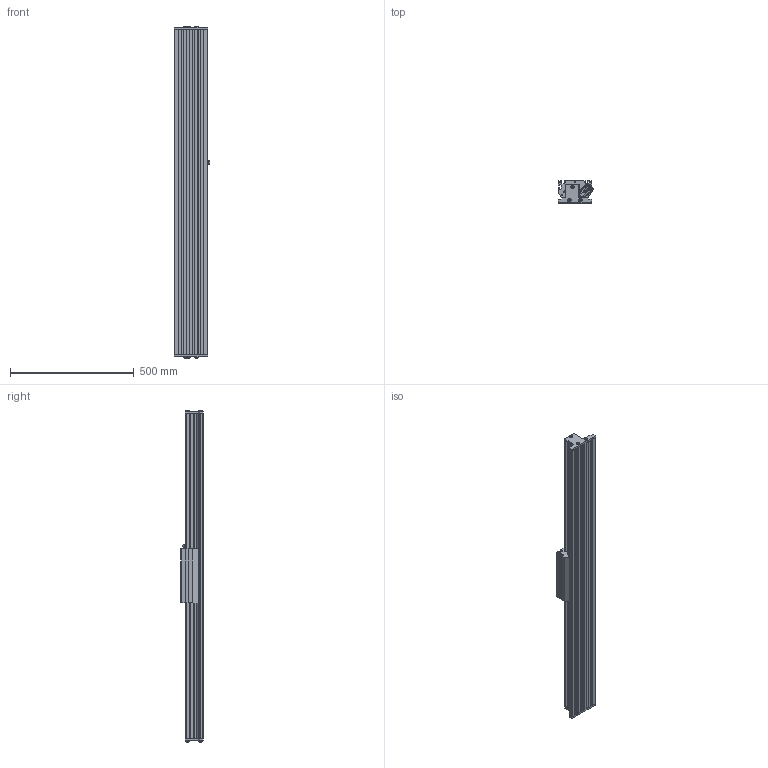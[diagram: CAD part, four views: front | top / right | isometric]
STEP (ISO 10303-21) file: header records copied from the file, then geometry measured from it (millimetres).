
FILE_DESCRIPTION (( 'STEP AP214' ), '1' );
FILE_NAME ('SINADRIVES Linear motor stage MLL20200XS-XX-1-0-ST-00-01332.STEP', '2015-07-06T09:06:49', ( 'Tecnico' ), ( '' ), 'SwSTEP 2.0', 'SolidWorks 2009', '' );
FILE_SCHEMA (( 'AUTOMOTIVE_DESIGN' ));
Length unit declared in the file: millimetre
Products named in the file (7): SINADRIVES PROFILE MLL2XXXX-1316; SINADRIVES CARRIAGE MLL20200XS-1; CARRIAGE MLL20200; Connector power+signal Y-tec 45; SINADRIVES ENDBLOCK MLL2; SINADRIVES ENDBLOCK MLL2-2; SINADRIVES Linear motor stage MLL20200XS-XX-1-0-ST-00-01332
Assembly tree (6 placements, depth 3):
  SINADRIVES Linear motor stage MLL20200XS-XX-1-0-ST-00-01332
    SINADRIVES CARRIAGE MLL20200XS-1
      CARRIAGE MLL20200
      Connector power+signal Y-tec 45
    SINADRIVES ENDBLOCK MLL2-2
    SINADRIVES PROFILE MLL2XXXX-1316
    SINADRIVES ENDBLOCK MLL2
Bounding box: 144.43 x 91 x 1340.8 mm (x, y, z)
Volume: 6502267.8 mm3; surface area: 1138013.2 mm2
Topology: 2 solids, 42 shells, 950 faces, 2640 edges, 1730 vertices
Faces by surface type: plane 445, cylinder 302, bspline 79, cone 70, torus 42, sphere 12
Entity records: 40587 total; most frequent: CARTESIAN_POINT 8656, ORIENTED_EDGE 5024, DIRECTION 4947, EDGE_CURVE 2622, AXIS2_PLACEMENT_3D 1781, VERTEX_POINT 1730, LINE 1385, VECTOR 1385
